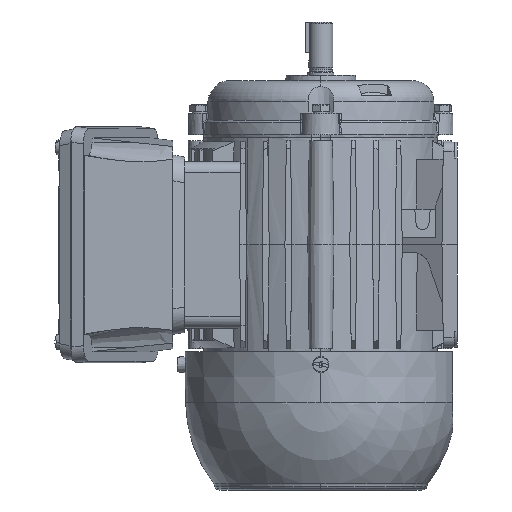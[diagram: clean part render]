
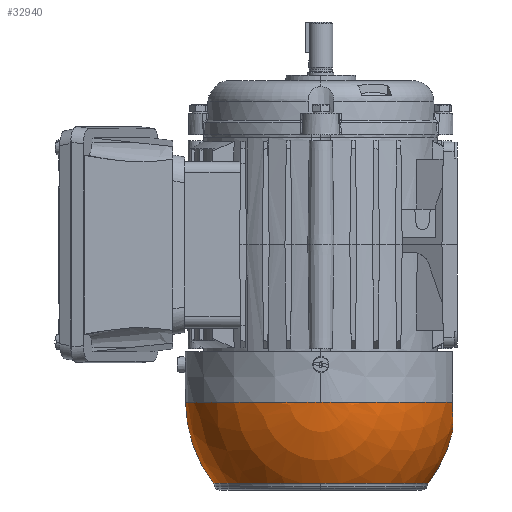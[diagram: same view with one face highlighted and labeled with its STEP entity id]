
A CAD part, left-side view. The second image highlights one B-rep face of the part: STEP entity #32940.
In plain terms, the highlighted spherical face has radius 62.549 mm.
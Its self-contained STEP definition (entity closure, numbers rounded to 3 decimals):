
#1982 = CARTESIAN_POINT ( 'NONE',  ( 0., 0., -72.746 ) ) ;
#1983 = DIRECTION ( 'NONE',  ( 0., 0., -1. ) ) ;
#1984 = DIRECTION ( 'NONE',  ( -1., 0., 0. ) ) ;
#2120 = CARTESIAN_POINT ( 'NONE',  ( 0., 0., -72.2 ) ) ;
#2121 = DIRECTION ( 'NONE',  ( -1., 0., 0. ) ) ;
#2122 = DIRECTION ( 'NONE',  ( 0., 0., 1. ) ) ;
#2166 = CARTESIAN_POINT ( 'NONE',  ( 0., 0., -110.394 ) ) ;
#2167 = DIRECTION ( 'NONE',  ( 0., 0., -1. ) ) ;
#2168 = DIRECTION ( 'NONE',  ( -1., 0., 0. ) ) ;
#2173 = CARTESIAN_POINT ( 'NONE',  ( 0., -61., -72.2 ) ) ;
#2174 = DIRECTION ( 'NONE',  ( 0., 1., 0. ) ) ;
#2175 = DIRECTION ( 'NONE',  ( -1., 0., 0. ) ) ;
#6363 = ORIENTED_EDGE ( 'NONE', *, *, #16056, .F. ) ;
#6364 = ORIENTED_EDGE ( 'NONE', *, *, #16253, .F. ) ;
#6365 = ORIENTED_EDGE ( 'NONE', *, *, #16043, .T. ) ;
#6366 = ORIENTED_EDGE ( 'NONE', *, *, #16001, .T. ) ;
#6367 = ORIENTED_EDGE ( 'NONE', *, *, #16354, .T. ) ;
#6517 = ORIENTED_EDGE ( 'NONE', *, *, #16059, .T. ) ;
#6518 = ORIENTED_EDGE ( 'NONE', *, *, #16195, .F. ) ;
#6562 = VERTEX_POINT ( 'NONE', #35798 ) ;
#6778 = VERTEX_POINT ( 'NONE', #35957 ) ;
#6826 = VERTEX_POINT ( 'NONE', #35993 ) ;
#7648 = AXIS2_PLACEMENT_3D ( 'NONE', #24704, #24703, #24708 ) ;
#8384 = EDGE_LOOP ( 'NONE', ( #6518, #6517, #6367, #6366, #6365, #6364, #6363 ) ) ;
#11765 = CARTESIAN_POINT ( 'NONE',  ( 0., 62.546, -72.746 ) ) ;
#11782 = CARTESIAN_POINT ( 'NONE',  ( -13.822, -61., -72.746 ) ) ;
#11915 = CARTESIAN_POINT ( 'NONE',  ( 0., 49.533, -110.394 ) ) ;
#12525 = CARTESIAN_POINT ( 'NONE',  ( 0., -49.533, -110.394 ) ) ;
#16001 = EDGE_CURVE ( 'NONE', #6778, #21505, #25546, .T. ) ;
#16043 = EDGE_CURVE ( 'NONE', #21505, #21616, #25607, .T. ) ;
#16056 = EDGE_CURVE ( 'NONE', #22066, #6826, #25614, .T. ) ;
#16059 = EDGE_CURVE ( 'NONE', #6562, #21525, #25631, .T. ) ;
#16195 = EDGE_CURVE ( 'NONE', #6562, #22066, #25879, .T. ) ;
#16253 = EDGE_CURVE ( 'NONE', #6826, #21616, #25988, .T. ) ;
#16354 = EDGE_CURVE ( 'NONE', #21525, #6778, #26175, .T. ) ;
#21505 = VERTEX_POINT ( 'NONE', #11765 ) ;
#21525 = VERTEX_POINT ( 'NONE', #11782 ) ;
#21616 = VERTEX_POINT ( 'NONE', #11915 ) ;
#22066 = VERTEX_POINT ( 'NONE', #12525 ) ;
#24703 = DIRECTION ( 'NONE',  ( 1., 0., 0. ) ) ;
#24704 = CARTESIAN_POINT ( 'NONE',  ( 0., 0., -72.2 ) ) ;
#24708 = DIRECTION ( 'NONE',  ( 0., 1., 0. ) ) ;
#25546 = CIRCLE ( 'NONE', #28015, 62.546 ) ;
#25607 = CIRCLE ( 'NONE', #28016, 62.549 ) ;
#25614 = CIRCLE ( 'NONE', #28012, 49.533 ) ;
#25631 = CIRCLE ( 'NONE', #28023, 13.832 ) ;
#25879 = CIRCLE ( 'NONE', #27979, 62.549 ) ;
#25988 = CIRCLE ( 'NONE', #27974, 49.533 ) ;
#26175 = CIRCLE ( 'NONE', #27966, 62.546 ) ;
#27966 = AXIS2_PLACEMENT_3D ( 'NONE', #29775, #29776, #29777 ) ;
#27974 = AXIS2_PLACEMENT_3D ( 'NONE', #29533, #29534, #29535 ) ;
#27979 = AXIS2_PLACEMENT_3D ( 'NONE', #29396, #29397, #29398 ) ;
#28012 = AXIS2_PLACEMENT_3D ( 'NONE', #2166, #2167, #2168 ) ;
#28015 = AXIS2_PLACEMENT_3D ( 'NONE', #1982, #1983, #1984 ) ;
#28016 = AXIS2_PLACEMENT_3D ( 'NONE', #2120, #2121, #2122 ) ;
#28023 = AXIS2_PLACEMENT_3D ( 'NONE', #2173, #2174, #2175 ) ;
#28691 = SPHERICAL_SURFACE ( 'NONE', #7648, 62.549 ) ;
#28696 = FACE_OUTER_BOUND ( 'NONE', #8384, .T. ) ;
#29396 = CARTESIAN_POINT ( 'NONE',  ( 0., 0., -72.2 ) ) ;
#29397 = DIRECTION ( 'NONE',  ( 1., 0., 0. ) ) ;
#29398 = DIRECTION ( 'NONE',  ( 0., 1., 0. ) ) ;
#29533 = CARTESIAN_POINT ( 'NONE',  ( 0., 0., -110.394 ) ) ;
#29534 = DIRECTION ( 'NONE',  ( 0., 0., -1. ) ) ;
#29535 = DIRECTION ( 'NONE',  ( -1., 0., 0. ) ) ;
#29775 = CARTESIAN_POINT ( 'NONE',  ( 0., 0., -72.746 ) ) ;
#29776 = DIRECTION ( 'NONE',  ( 0., 0., -1. ) ) ;
#29777 = DIRECTION ( 'NONE',  ( -1., 0., 0. ) ) ;
#32940 = ADVANCED_FACE ( 'NONE', ( #28696 ), #28691, .T. ) ;
#35798 = CARTESIAN_POINT ( 'NONE',  ( 0., -61., -86.032 ) ) ;
#35957 = CARTESIAN_POINT ( 'NONE',  ( -62.546, 0., -72.746 ) ) ;
#35993 = CARTESIAN_POINT ( 'NONE',  ( -49.533, 0., -110.394 ) ) ;
